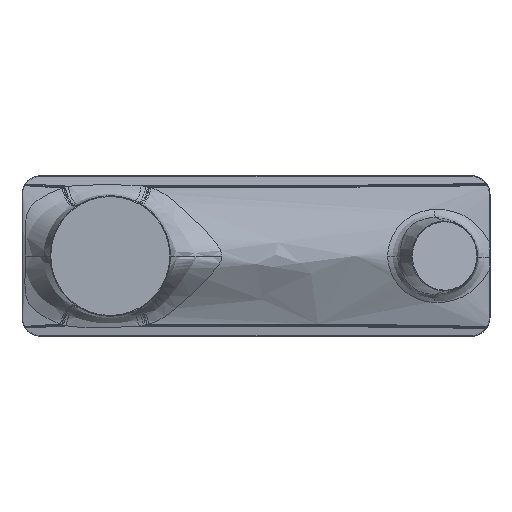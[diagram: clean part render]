
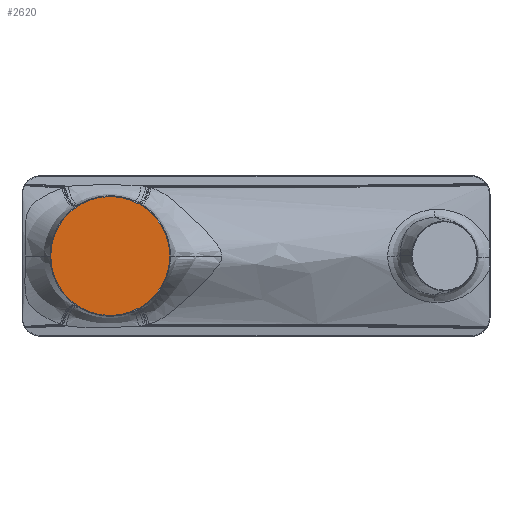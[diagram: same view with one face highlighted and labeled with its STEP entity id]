
A CAD part, front view. The second image highlights one B-rep face of the part: STEP entity #2620.
In plain terms, the highlighted planar face has unit normal (0, -1, 0).
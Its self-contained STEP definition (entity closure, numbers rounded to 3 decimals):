
#265=PLANE('',#2847);
#330=FACE_OUTER_BOUND('',#507,.T.);
#507=EDGE_LOOP('',(#1869));
#684=CIRCLE('',#2843,22.25);
#1041=VERTEX_POINT('',#4977);
#1321=EDGE_CURVE('',#1041,#1041,#684,.T.);
#1869=ORIENTED_EDGE('',*,*,#1321,.F.);
#2620=ADVANCED_FACE('',(#330),#265,.T.);
#2843=AXIS2_PLACEMENT_3D('',#4978,#3204,#3205);
#2847=AXIS2_PLACEMENT_3D('',#5667,#3212,#3213);
#3204=DIRECTION('center_axis',(0.,1.,0.));
#3205=DIRECTION('ref_axis',(-1.,0.,0.));
#3212=DIRECTION('center_axis',(0.,-1.,0.));
#3213=DIRECTION('ref_axis',(-1.,0.,0.));
#4977=CARTESIAN_POINT('',(22.25,0.,0.));
#4978=CARTESIAN_POINT('Origin',(0.,0.,0.));
#5667=CARTESIAN_POINT('Origin',(0.,0.,0.));
